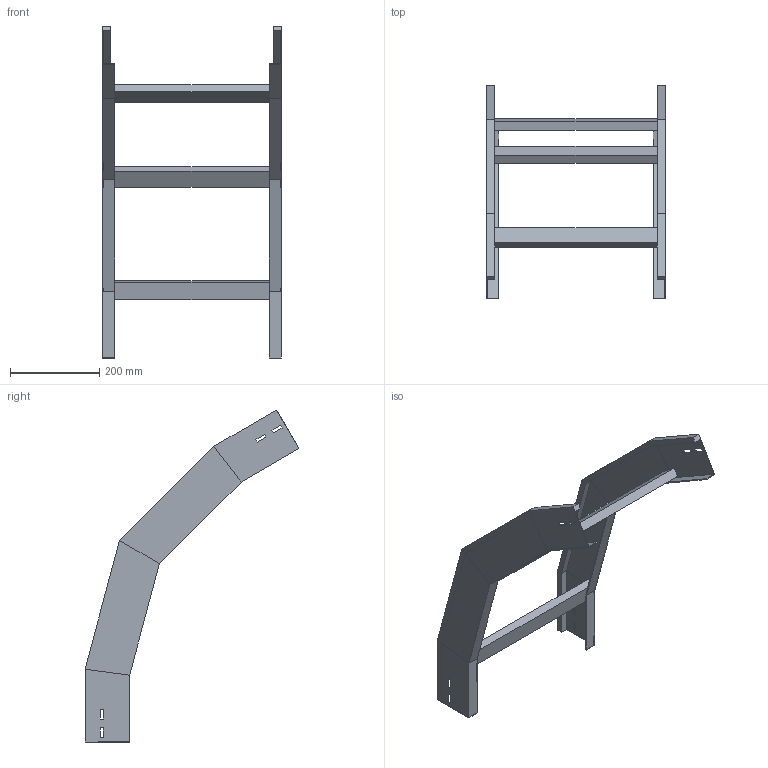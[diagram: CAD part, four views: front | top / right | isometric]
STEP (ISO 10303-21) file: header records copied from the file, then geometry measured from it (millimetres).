
FILE_DESCRIPTION (( 'STEP AP214' ), '1' );
FILE_NAME ('41B5D400.step', '2025-02-21T14:56:04', ( '' ), ( '' ), 'SwSTEP 2.0', 'SolidWorks 2023', '' );
FILE_SCHEMA (( 'AUTOMOTIVE_DESIGN' ));
Length unit declared in the file: millimetre
Products named in the file (3): TRAVERSINO_400; LONGH.DISCESA_60°_H100_R500; 41B5D400
Assembly tree (5 placements, depth 2):
  41B5D400
    LONGH.DISCESA_60°_H100_R500  x2
    TRAVERSINO_400  x3
Bounding box: 400 x 480.08 x 744.92 mm (x, y, z)
Volume: 1742636.7 mm3; surface area: 644909.5 mm2
Topology: 5 solids, 5 shells, 118 faces, 276 edges, 168 vertices
Faces by surface type: plane 118
Entity records: 1672 total; most frequent: CARTESIAN_POINT 276, ORIENTED_EDGE 264, DIRECTION 260, EDGE_CURVE 132, VECTOR 132, LINE 132, VERTEX_POINT 80, AXIS2_PLACEMENT_3D 64
